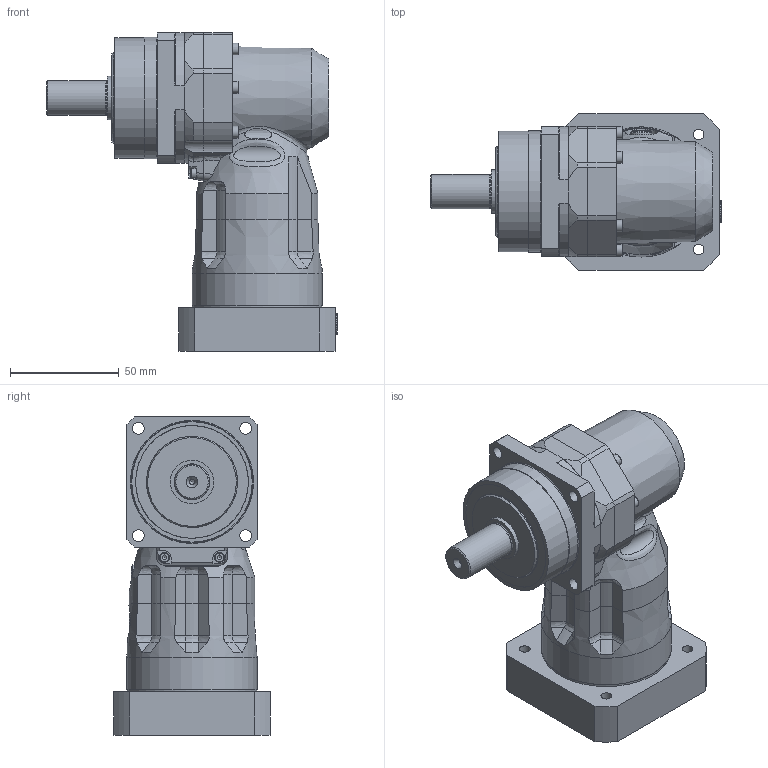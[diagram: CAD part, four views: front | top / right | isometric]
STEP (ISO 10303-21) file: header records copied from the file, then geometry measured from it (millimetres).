
FILE_DESCRIPTION(/* description */ ('ANFX-PK110N-2-H12G'),/* implementation_level */ '2;1');
FILE_NAME(/* name */ 'C:\Users\ADMINI~1\AppData\Local\Temp\MM582485_ANFX-PK110N-2-H12G.stp',/* time_stamp */ '2018-07-11T14:03:11+02:00',/* author */ ('Max'),/* organization */ (''),/* preprocessor_version */ 'ST-DEVELOPER v17',/* originating_system */ 'Autodesk Inventor 2018',/* authorisation */ '');
FILE_SCHEMA (('AUTOMOTIVE_DESIGN { 1 0 10303 214 3 1 1 }'));
Length unit declared in the file: millimetre
Products named in the file (22): MM581710; MMBG0004105; MMCM057LG; MMAF787LG; 202119; MMAP6508G; 009M004R012NG; M531N20357---G; 211458; 212123; 213374; MMBG0004130; MMCL239LG; MMCL433LG; MAW8353G; MAX4839G; MMBG0004116; MMAF790LG; MAZ16117-5; 133584; MAW8349G; 211554
Assembly tree (50 placements, depth 3):
  MM581710
    MMBG0004105
      MMCM057LG
      MMAF787LG
      202119
      MMAP6508G
      009M004R012NG
      M531N20357---G
      211458  x2
      212123  x8
      213374  x6
    MMBG0004130
      MMCL239LG
      MMCL433LG
      MAW8353G
      MAX4839G
    MMBG0004116
      MMAF790LG
      MAZ16117-5  x10
    133584
    MAW8349G
    211554  x8
Bounding box: 134 x 72 x 146.7 mm (x, y, z)
Volume: 327539.3 mm3; surface area: 146789.2 mm2
Topology: 116 solids, 117 shells, 1172 faces, 3297 edges, 2319 vertices
Faces by surface type: plane 525, cylinder 305, cone 135, torus 95, sphere 68, bspline 44
Full cylindrical faces by diameter (mm): 2 x1, 2.013 x10, 2.459 x14, 2.5 x11, 2.9 x10, 3 x14, 3.242 x9, 3.4 x14, 4 x9, 4.5 x19, 4.917 x4, 5.5 x26, 7 x9, 7.8 x1, 8 x9, 8.2 x1, 8.4 x1, 8.566 x2, 10 x1, 12 x1, 14.5 x1, 15 x2, 16 x1, 17.5 x1, 19 x1, 19.4 x1, 19.6 x1, 20 x3, 20.5 x1, 24.2 x1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
Entity records: 27107 total; most frequent: CARTESIAN_POINT 6447, DIRECTION 4391, ORIENTED_EDGE 3892, EDGE_CURVE 1946, AXIS2_PLACEMENT_3D 1866, VERTEX_POINT 1484, CIRCLE 1068, EDGE_LOOP 962
